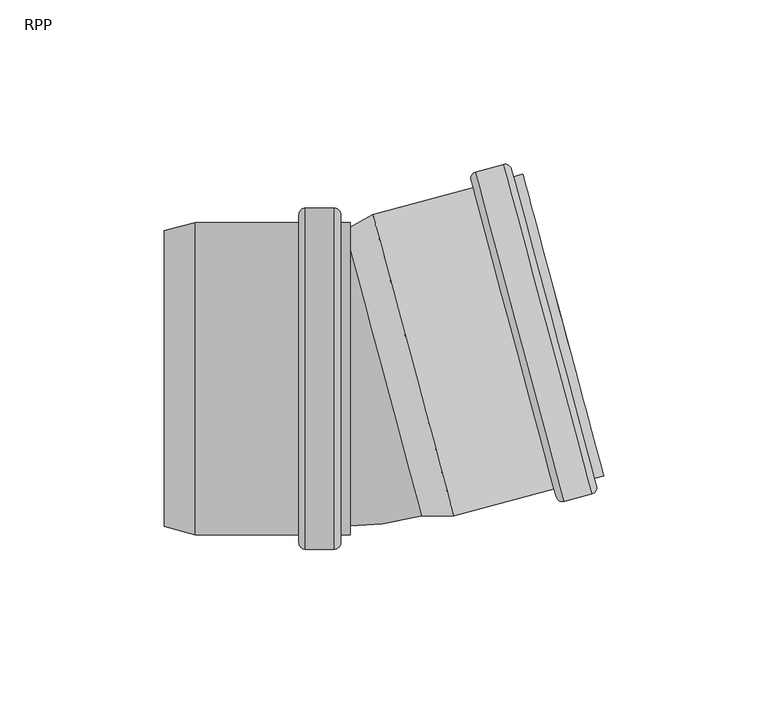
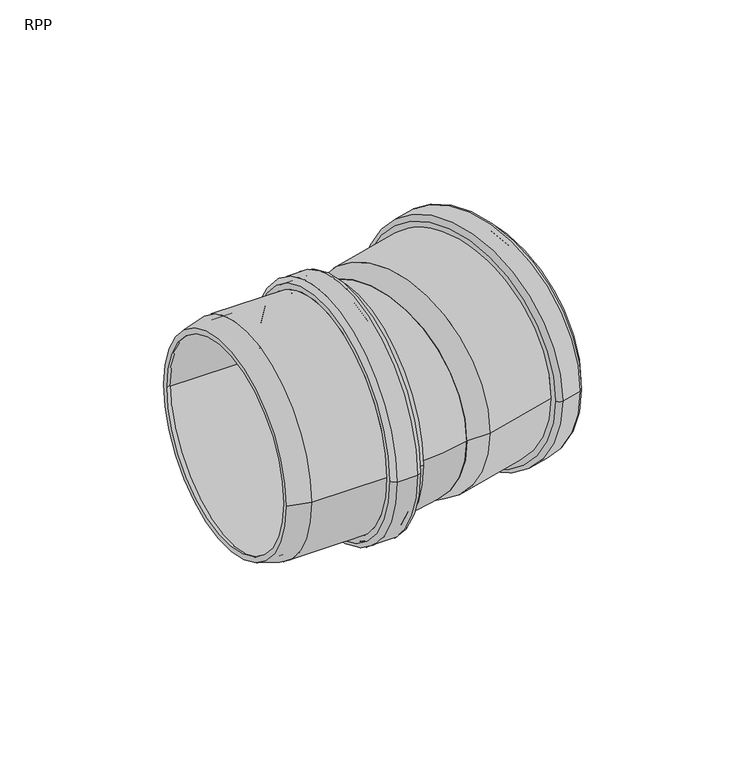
"""IFC4 building model written with IfcOpenShell, lengths in millimetres: pipe fitting geometry, RAUPIANO PLUS Bend : RPP."""

from ifc_helpers import new_model, si_unit, point, frame, origin, place, context, project, spatial, polyline, circle_curve, ellipse_curve, trimmed, source, transform, mapped, element, save
from ifc_brep_helpers import plane_surface, cylinder_surface, revolved_surface, advanced_brep


def rpp_1f847ae8(model_context):
    return source(origin(), model_context, "Body", "AdvancedBrep", [
        advanced_brep(
        [(-17.3509724, -45.3, 0.0), (-17.3509724, 45.3, 0.0), (-50.8312099, 45.3, 0.0), (-50.8312099, -45.3, 0.0), (-16.8509724, -49.7, 0.0), (-16.8509724, 49.7, 0.0), (-17.3509724, 49.2, 0.0), (-17.3509724, -49.2, 0.0), (-9.5509724, -49.7, 0.0), (-9.5509724, 49.7, 0.0), (-9.0509724, -49.2, 0.0), (-9.0509724, 49.2, 0.0), (-3.9509724, -45.3, 0.0), (-3.9509724, 45.3, 0.0), (-9.0509724, 45.3, 0.0), (-9.0509724, -45.3, 0.0), (-6.8509724, -47.5, 0.0), (-6.8509724, 47.5, 0.0), (-3.9509724, 47.5, 0.0), (-3.9509724, -47.5, 0.0), (-8.8509724, -51.9, 0.0), (-8.8509724, 51.9, 0.0), (-6.8509724, 49.9, 0.0), (-6.8509724, -49.9, 0.0), (-17.5509724, -51.9, 0.0), (-17.5509724, 51.9, 0.0), (-19.5509724, -49.9, 0.0), (-19.5509724, 49.9, 0.0), (-51.1208454, -47.5, 0.0), (-51.1208454, 47.5, 0.0), (-19.5509724, 47.5, 0.0), (-19.5509724, -47.5, 0.0), (-60.4509724, -45.0, 0.0), (-60.4509724, 45.0, 0.0), (-60.4509724, 42.7223924, 0.0), (-60.4509724, -42.7223924, 0.0)],
        [
            (0, 1, circle_curve(frame((-17.3509724, 0.0, 0.0), z_axis=(1.0, 0.0, 0.0), x_axis=(0.0, 1.0, 0.0)), 45.3)),
            (1, 2),
            (2, 3, circle_curve(frame((-50.8312099, 0.0, 0.0), z_axis=(-1.0, 0.0, 0.0), x_axis=(0.0, 1.0, 0.0)), 45.3)),
            (3, 0),
            (4, 5, circle_curve(frame((-16.8509724, 0.0, 0.0), z_axis=(1.0, 0.0, 0.0), x_axis=(0.0, 1.0, 0.0)), 49.7)),
            (5, 6, circle_curve(frame((-16.8509724, 49.2, 0.0), z_axis=(0.0, 0.0, 1.0), x_axis=(0.0, -1.0, 0.0)), 0.5)),
            (6, 7, circle_curve(frame((-17.3509724, 0.0, 0.0), z_axis=(-1.0, 0.0, 0.0), x_axis=(0.0, 1.0, 0.0)), 49.2)),
            (7, 4, circle_curve(frame((-16.8509724, -49.2, 0.0), z_axis=(0.0, 0.0, 1.0), x_axis=(0.0, 1.0, 0.0)), 0.5)),
            (8, 9, circle_curve(frame((-9.5509724, 0.0, 0.0), z_axis=(1.0, 0.0, 0.0), x_axis=(0.0, 1.0, 0.0)), 49.7)),
            (9, 5),
            (4, 8),
            (10, 11, circle_curve(frame((-9.0509724, 0.0, 0.0), z_axis=(1.0, 0.0, 0.0), x_axis=(0.0, 1.0, 0.0)), 49.2)),
            (11, 9, circle_curve(frame((-9.5509724, 49.2, 0.0), z_axis=(0.0, 0.0, 1.0), x_axis=(0.0, -1.0, 0.0)), 0.5)),
            (8, 10, circle_curve(frame((-9.5509724, -49.2, 0.0), z_axis=(0.0, 0.0, 1.0), x_axis=(0.0, 1.0, 0.0)), 0.5)),
            (12, 13, circle_curve(frame((-3.9509724, 0.0, 0.0), z_axis=(1.0, 0.0, 0.0), x_axis=(0.0, 1.0, 0.0)), 45.3)),
            (13, 14),
            (14, 15, circle_curve(frame((-9.0509724, 0.0, 0.0), z_axis=(-1.0, 0.0, 0.0), x_axis=(0.0, 1.0, 0.0)), 45.3)),
            (15, 12),
            (16, 17, circle_curve(frame((-6.8509724, 0.0, 0.0), z_axis=(1.0, 0.0, 0.0), x_axis=(0.0, 1.0, 0.0)), 47.5)),
            (17, 18),
            (18, 19, circle_curve(frame((-3.9509724, 0.0, 0.0), z_axis=(-1.0, 0.0, 0.0), x_axis=(0.0, 1.0, 0.0)), 47.5)),
            (19, 16),
            (20, 21, circle_curve(frame((-8.8509724, 0.0, 0.0), z_axis=(1.0, 0.0, 0.0), x_axis=(0.0, 1.0, 0.0)), 51.9)),
            (21, 22, circle_curve(frame((-8.8509724, 49.9, 0.0), z_axis=(0.0, 0.0, -1.0), x_axis=(0.0, -1.0, 0.0)), 2.0)),
            (22, 23, circle_curve(frame((-6.8509724, 0.0, 0.0), z_axis=(-1.0, 0.0, 0.0), x_axis=(0.0, 1.0, 0.0)), 49.9)),
            (23, 20, circle_curve(frame((-8.8509724, -49.9, 0.0), z_axis=(0.0, 0.0, -1.0), x_axis=(0.0, 1.0, 0.0)), 2.0)),
            (24, 25, circle_curve(frame((-17.5509724, 0.0, 0.0), z_axis=(1.0, 0.0, 0.0), x_axis=(0.0, 1.0, 0.0)), 51.9)),
            (25, 21),
            (20, 24),
            (26, 27, circle_curve(frame((-19.5509724, 0.0, 0.0), z_axis=(1.0, 0.0, 0.0), x_axis=(0.0, 1.0, 0.0)), 49.9)),
            (27, 25, circle_curve(frame((-17.5509724, 49.9, 0.0), z_axis=(0.0, 0.0, -1.0), x_axis=(0.0, -1.0, 0.0)), 2.0)),
            (24, 26, circle_curve(frame((-17.5509724, -49.9, 0.0), z_axis=(0.0, 0.0, -1.0), x_axis=(0.0, 1.0, 0.0)), 2.0)),
            (28, 29, circle_curve(frame((-51.1208454, 0.0, 0.0), z_axis=(1.0, 0.0, 0.0), x_axis=(0.0, 1.0, 0.0)), 47.5)),
            (29, 30),
            (30, 31, circle_curve(frame((-19.5509724, 0.0, 0.0), z_axis=(-1.0, 0.0, 0.0), x_axis=(0.0, 1.0, 0.0)), 47.5)),
            (31, 28),
            (32, 33, circle_curve(frame((-60.4509724, 0.0, 0.0), z_axis=(1.0, 0.0, 0.0), x_axis=(0.0, 1.0, 0.0)), 45.0)),
            (33, 29),
            (28, 32),
            (2, 34),
            (34, 35, circle_curve(frame((-60.4509724, 0.0, 0.0), z_axis=(-1.0, 0.0, 0.0), x_axis=(0.0, 1.0, 0.0)), 42.7223924)),
            (35, 3),
            (1, 0, circle_curve(frame((-17.3509724, 0.0, 0.0), z_axis=(1.0, 0.0, 0.0), x_axis=(0.0, -1.0, 0.0)), 45.3)),
            (3, 2, circle_curve(frame((-50.8312099, 0.0, 0.0), z_axis=(-1.0, 0.0, 0.0), x_axis=(0.0, -1.0, 0.0)), 45.3)),
            (6, 7, circle_curve(frame((-17.3509724, 0.0, 0.0), z_axis=(1.0, 0.0, 0.0), x_axis=(0.0, -1.0, 0.0)), 49.2)),
            (5, 4, circle_curve(frame((-16.8509724, 0.0, 0.0), z_axis=(1.0, 0.0, 0.0), x_axis=(0.0, -1.0, 0.0)), 49.7)),
            (9, 8, circle_curve(frame((-9.5509724, 0.0, 0.0), z_axis=(1.0, 0.0, 0.0), x_axis=(0.0, -1.0, 0.0)), 49.7)),
            (11, 10, circle_curve(frame((-9.0509724, 0.0, 0.0), z_axis=(1.0, 0.0, 0.0), x_axis=(0.0, -1.0, 0.0)), 49.2)),
            (14, 15, circle_curve(frame((-9.0509724, 0.0, 0.0), z_axis=(1.0, 0.0, 0.0), x_axis=(0.0, -1.0, 0.0)), 45.3)),
            (13, 12, circle_curve(frame((-3.9509724, 0.0, 0.0), z_axis=(1.0, 0.0, 0.0), x_axis=(0.0, -1.0, 0.0)), 45.3)),
            (18, 19, circle_curve(frame((-3.9509724, 0.0, 0.0), z_axis=(1.0, 0.0, 0.0), x_axis=(0.0, -1.0, 0.0)), 47.5)),
            (17, 16, circle_curve(frame((-6.8509724, 0.0, 0.0), z_axis=(1.0, 0.0, 0.0), x_axis=(0.0, -1.0, 0.0)), 47.5)),
            (22, 23, circle_curve(frame((-6.8509724, 0.0, 0.0), z_axis=(1.0, 0.0, 0.0), x_axis=(0.0, -1.0, 0.0)), 49.9)),
            (21, 20, circle_curve(frame((-8.8509724, 0.0, 0.0), z_axis=(1.0, 0.0, 0.0), x_axis=(0.0, -1.0, 0.0)), 51.9)),
            (25, 24, circle_curve(frame((-17.5509724, 0.0, 0.0), z_axis=(1.0, 0.0, 0.0), x_axis=(0.0, -1.0, 0.0)), 51.9)),
            (27, 26, circle_curve(frame((-19.5509724, 0.0, 0.0), z_axis=(1.0, 0.0, 0.0), x_axis=(0.0, -1.0, 0.0)), 49.9)),
            (30, 31, circle_curve(frame((-19.5509724, 0.0, 0.0), z_axis=(1.0, 0.0, 0.0), x_axis=(0.0, -1.0, 0.0)), 47.5)),
            (29, 28, circle_curve(frame((-51.1208454, 0.0, 0.0), z_axis=(1.0, 0.0, 0.0), x_axis=(0.0, -1.0, 0.0)), 47.5)),
            (33, 32, circle_curve(frame((-60.4509724, 0.0, 0.0), z_axis=(1.0, 0.0, 0.0), x_axis=(0.0, -1.0, 0.0)), 45.0)),
            (34, 35, circle_curve(frame((-60.4509724, 0.0, 0.0), z_axis=(1.0, 0.0, 0.0), x_axis=(0.0, -1.0, 0.0)), 42.7223924)),
        ],
        [
            revolved_surface(polyline([(-50.8312099, 45.3, 0.0), (-17.350972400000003, 45.3, 0.0)]), (-60.4509724, 0.0, 0.0), (-1.0, 0.0, 0.0)),
            revolved_surface(trimmed(ellipse_curve(frame((-16.8509724, 49.2, 0.0), z_axis=(0.0, 0.0, -1.0), x_axis=(0.0, -1.0, 0.0)), 0.5, 0.5), [point((-17.3509724, 49.2, 0.0))], [point((-16.8509724, 49.7, 0.0))], True, "CARTESIAN"), (-60.4509724, 0.0, 0.0), (-1.0, 0.0, 0.0)),
            revolved_surface(polyline([(-16.850972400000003, 49.7, 0.0), (-9.5509724, 49.7, 0.0)]), (-60.4509724, 0.0, 0.0), (-1.0, 0.0, 0.0)),
            revolved_surface(trimmed(ellipse_curve(frame((-9.5509724, 49.2, 0.0), z_axis=(0.0, 0.0, -1.0), x_axis=(0.0, -1.0, 0.0)), 0.5, 0.5), [point((-9.5509724, 49.7, 0.0))], [point((-9.0509724, 49.2, 0.0))], True, "CARTESIAN"), (-60.4509724, 0.0, 0.0), (-1.0, 0.0, 0.0)),
            revolved_surface(polyline([(-9.0509724, 45.3, 0.0), (-3.9509723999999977, 45.3, 0.0)]), (-60.4509724, 0.0, 0.0), (-1.0, 0.0, 0.0)),
            cylinder_surface(frame((-60.4509724, 0.0, 0.0), z_axis=(-1.0, 0.0, 0.0), x_axis=(0.0, 1.0, 0.0)), 47.5),
            revolved_surface(trimmed(ellipse_curve(frame((-8.8509724, 49.9, 0.0), z_axis=(0.0, 0.0, 1.0), x_axis=(0.0, -1.0, 0.0)), 2.0, 2.0), [point((-6.8509724, 49.9, 0.0))], [point((-8.8509724, 51.9, 0.0))], True, "CARTESIAN"), (-60.4509724, 0.0, 0.0), (-1.0, 0.0, 0.0)),
            cylinder_surface(frame((-60.4509724, 0.0, 0.0), z_axis=(-1.0, 0.0, 0.0), x_axis=(0.0, 1.0, 0.0)), 51.9),
            revolved_surface(trimmed(ellipse_curve(frame((-17.5509724, 49.9, 0.0), z_axis=(0.0, 0.0, 1.0), x_axis=(0.0, -1.0, 0.0)), 2.0, 2.0), [point((-17.5509724, 51.9, 0.0))], [point((-19.5509724, 49.9, 0.0))], True, "CARTESIAN"), (-60.4509724, 0.0, 0.0), (-1.0, 0.0, 0.0)),
            revolved_surface(polyline([(-51.1208454, 47.5, 0.0), (-60.4509724, 45.0, 0.0)]), (-60.4509724, 0.0, 0.0), (-1.0, 0.0, 0.0)),
            revolved_surface(polyline([(-60.4509724, 42.7223924, 0.0), (-50.8312099, 45.3, 0.0)]), (-60.4509724, 0.0, 0.0), (-1.0, 0.0, 0.0)),
            revolved_surface(polyline([(-50.8312099, -45.3, 0.0), (-17.350972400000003, -45.3, 0.0)]), (-60.4509724, 0.0, 0.0), (-1.0, 0.0, 0.0)),
            plane_surface(frame((-17.3509724, 0.0, 0.0), z_axis=(1.0, 0.0, 0.0), x_axis=(0.0, -1.0, 0.0))),
            revolved_surface(trimmed(ellipse_curve(frame((-16.8509724, -49.2, 0.0), z_axis=(0.0, 0.0, 1.0), x_axis=(0.0, 1.0, 0.0)), 0.5, 0.5), [point((-17.3509724, -49.2, 0.0))], [point((-16.8509724, -49.7, 0.0))], True, "CARTESIAN"), (-60.4509724, 0.0, 0.0), (-1.0, 0.0, 0.0)),
            revolved_surface(polyline([(-16.850972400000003, -49.7, 0.0), (-9.5509724, -49.7, 0.0)]), (-60.4509724, 0.0, 0.0), (-1.0, 0.0, 0.0)),
            revolved_surface(trimmed(ellipse_curve(frame((-9.5509724, -49.2, 0.0), z_axis=(0.0, 0.0, 1.0), x_axis=(0.0, 1.0, 0.0)), 0.5, 0.5), [point((-9.5509724, -49.7, 0.0))], [point((-9.0509724, -49.2, 0.0))], True, "CARTESIAN"), (-60.4509724, 0.0, 0.0), (-1.0, 0.0, 0.0)),
            plane_surface(frame((-9.0509724, 0.0, 0.0), z_axis=(-1.0, 0.0, 0.0), x_axis=(0.0, -1.0, 0.0))),
            revolved_surface(polyline([(-9.0509724, -45.3, 0.0), (-3.9509723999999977, -45.3, 0.0)]), (-60.4509724, 0.0, 0.0), (-1.0, 0.0, 0.0)),
            plane_surface(frame((-3.9509724, 0.0, 0.0), z_axis=(1.0, 0.0, 0.0), x_axis=(0.0, -1.0, 0.0))),
            cylinder_surface(frame((-60.4509724, 0.0, 0.0), z_axis=(-1.0, 0.0, 0.0), x_axis=(0.0, -1.0, 0.0)), 47.5),
            plane_surface(frame((-6.8509724, 0.0, 0.0), z_axis=(1.0, 0.0, 0.0), x_axis=(0.0, -1.0, 0.0))),
            revolved_surface(trimmed(ellipse_curve(frame((-8.8509724, -49.9, 0.0), z_axis=(0.0, 0.0, -1.0), x_axis=(0.0, 1.0, 0.0)), 2.0, 2.0), [point((-6.8509724, -49.9, 0.0))], [point((-8.8509724, -51.9, 0.0))], True, "CARTESIAN"), (-60.4509724, 0.0, 0.0), (-1.0, 0.0, 0.0)),
            cylinder_surface(frame((-60.4509724, 0.0, 0.0), z_axis=(-1.0, 0.0, 0.0), x_axis=(0.0, -1.0, 0.0)), 51.9),
            revolved_surface(trimmed(ellipse_curve(frame((-17.5509724, -49.9, 0.0), z_axis=(0.0, 0.0, -1.0), x_axis=(0.0, 1.0, 0.0)), 2.0, 2.0), [point((-17.5509724, -51.9, 0.0))], [point((-19.5509724, -49.9, 0.0))], True, "CARTESIAN"), (-60.4509724, 0.0, 0.0), (-1.0, 0.0, 0.0)),
            plane_surface(frame((-19.5509724, 0.0, 0.0), z_axis=(-1.0, 0.0, 0.0), x_axis=(0.0, -1.0, 0.0))),
            revolved_surface(polyline([(-51.1208454, -47.5, 0.0), (-60.4509724, -45.0, 0.0)]), (-60.4509724, 0.0, 0.0), (-1.0, 0.0, 0.0)),
            plane_surface(frame((-60.4509724, 0.0, 0.0), z_axis=(-1.0, 0.0, 0.0), x_axis=(0.0, -1.0, 0.0))),
            revolved_surface(polyline([(-60.4509724, -42.7223924, 0.0), (-50.8312099, -45.3, 0.0)]), (-60.4509724, 0.0, 0.0), (-1.0, 0.0, 0.0)),
        ],
        [
            (0, [[1, 2, 3, 4]]),
            (1, [[5, 6, 7, 8]]),
            (2, [[9, 10, -5, 11]]),
            (3, [[12, 13, -9, 14]]),
            (4, [[15, 16, 17, 18]]),
            (5, [[19, 20, 21, 22]]),
            (6, [[23, 24, 25, 26]]),
            (7, [[27, 28, -23, 29]]),
            (8, [[30, 31, -27, 32]]),
            (5, [[33, 34, 35, 36]]),
            (9, [[37, 38, -33, 39]]),
            (10, [[-3, 40, 41, 42]]),
            (11, [[43, -4, 44, -2]]),
            (12, [[45, -7], [-43, -1]]),
            (13, [[46, -8, -45, -6]]),
            (14, [[47, -11, -46, -10]]),
            (15, [[48, -14, -47, -13]]),
            (16, [[-48, -12], [49, -17]]),
            (17, [[50, -18, -49, -16]]),
            (18, [[51, -21], [-50, -15]]),
            (19, [[52, -22, -51, -20]]),
            (20, [[53, -25], [-52, -19]]),
            (21, [[54, -26, -53, -24]]),
            (22, [[55, -29, -54, -28]]),
            (23, [[56, -32, -55, -31]]),
            (24, [[-56, -30], [57, -35]]),
            (19, [[58, -36, -57, -34]]),
            (25, [[59, -39, -58, -38]]),
            (26, [[-59, -37], [60, -41]]),
            (27, [[-44, -42, -60, -40]]),
        ],
    ),
        advanced_brep(
        [(17.2885296, -39.5970277, 0.0), (-4.826208, 42.9362967, 0.0), (3.7986351, 47.9158522, 0.0), (27.2476406, -39.5970277, 0.0), (27.5372761, -41.7970277, 0.0), (2.9494668, 49.9659258, 0.0), (-5.4156962, 45.1362967, 0.0), (17.8780179, -41.7970277, 0.0), (58.0314318, -33.6261433, 0.0), (33.4436225, 58.1368102, 0.0), (69.5056419, -35.1068531, 0.0), (42.640225, 65.1562476, 0.0), (34.2366703, 62.9045219, 0.0), (61.1020872, -37.3585788, 0.0), (73.0998747, -29.5885662, 0.0), (48.5120654, 62.1743873, 0.0), (45.7108805, 61.4238121, 0.0), (70.2986898, -30.3391414, 0.0), (67.604251, -28.7835065, 0.0), (44.1552456, 58.7293734, 0.0), (49.0814673, 60.0493505, 0.0), (72.5304728, -27.4635294, 0.0), (61.2088334, -35.0523687, 0.0), (35.4822203, 60.9606584, 0.0), (42.5334788, 62.8500375, 0.0), (68.2600919, -33.1629897, 0.0), (36.1380612, 56.5811753, 0.0), (59.5870667, -30.9317046, 0.0), (32.8224568, 60.4550322, 0.0), (58.6525975, -35.9443653, 0.0), (70.9198555, -32.6573634, 0.0), (45.0897148, 63.7420341, 0.0), (43.1458513, 62.4964841, 0.0), (68.6136453, -32.5506172, 0.0), (60.596461, -34.6988153, 0.0), (35.1286669, 60.348286, 0.0)],
        [
            (0, 1, circle_curve(frame((6.2311608, 1.6696345, 0.0), z_axis=(-0.965925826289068, -0.25881904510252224, 0.0), x_axis=(-0.25881904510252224, 0.965925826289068, 0.0)), 42.7223924)),
            (1, 2),
            (2, 3, circle_curve(frame((15.5231379, 4.1594123, 0.0), z_axis=(0.965925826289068, 0.25881904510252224, 0.0), x_axis=(-0.25881904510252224, 0.965925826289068, 0.0)), 45.3)),
            (3, 0),
            (4, 5, circle_curve(frame((15.2433715, 4.0844491, 0.0), z_axis=(-0.965925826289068, -0.25881904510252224, 0.0), x_axis=(-0.25881904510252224, 0.965925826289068, 0.0)), 47.5)),
            (5, 6),
            (6, 7, circle_curve(frame((6.2311608, 1.6696345, 0.0), z_axis=(0.965925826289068, 0.25881904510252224, 0.0), x_axis=(-0.25881904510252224, 0.965925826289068, 0.0)), 45.0)),
            (7, 4),
            (8, 9, circle_curve(frame((45.7375271, 12.2553335, 0.0), z_axis=(-0.965925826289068, -0.25881904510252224, 0.0), x_axis=(-0.25881904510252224, 0.965925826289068, 0.0)), 47.5)),
            (9, 5),
            (4, 8),
            (10, 11, circle_curve(frame((56.0729335, 15.0246972, 0.0), z_axis=(-0.965925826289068, -0.25881904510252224, 0.0), x_axis=(-0.25881904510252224, 0.965925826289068, 0.0)), 51.9)),
            (11, 12),
            (12, 13, circle_curve(frame((47.6693788, 12.7729715, 0.0), z_axis=(0.965925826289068, 0.25881904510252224, 0.0), x_axis=(-0.25881904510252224, 0.965925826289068, 0.0)), 51.9)),
            (13, 10),
            (14, 15, circle_curve(frame((60.80597, 16.2929106, 0.0), z_axis=(-0.965925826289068, -0.25881904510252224, 0.0), x_axis=(-0.25881904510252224, 0.965925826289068, 0.0)), 47.5)),
            (15, 16),
            (16, 17, circle_curve(frame((58.0047851, 15.5423353, 0.0), z_axis=(0.965925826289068, 0.25881904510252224, 0.0), x_axis=(-0.25881904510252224, 0.965925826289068, 0.0)), 47.5)),
            (17, 14),
            (18, 19, circle_curve(frame((55.8797483, 14.9729334, 0.0), z_axis=(-0.965925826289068, -0.25881904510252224, 0.0), x_axis=(-0.25881904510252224, 0.965925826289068, 0.0)), 45.3)),
            (19, 20),
            (20, 21, circle_curve(frame((60.80597, 16.2929106, 0.0), z_axis=(0.965925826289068, 0.25881904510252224, 0.0), x_axis=(-0.25881904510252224, 0.965925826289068, 0.0)), 45.3)),
            (21, 18),
            (22, 23, circle_curve(frame((48.3455269, 12.9541449, 0.0), z_axis=(-0.965925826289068, -0.25881904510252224, 0.0), x_axis=(-0.25881904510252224, 0.965925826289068, 0.0)), 49.7)),
            (23, 24),
            (24, 25, circle_curve(frame((55.3967854, 14.8435239, 0.0), z_axis=(0.965925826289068, 0.25881904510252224, 0.0), x_axis=(-0.25881904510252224, 0.965925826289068, 0.0)), 49.7)),
            (25, 22),
            (2, 26),
            (26, 27, circle_curve(frame((47.8625639, 12.8247354, 0.0), z_axis=(0.965925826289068, 0.25881904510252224, 0.0), x_axis=(-0.25881904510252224, 0.965925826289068, 0.0)), 45.3)),
            (27, 3),
            (1, 0, circle_curve(frame((6.2311608, 1.6696345, 0.0), z_axis=(-0.965925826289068, -0.25881904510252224, 0.0), x_axis=(0.25881904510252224, -0.965925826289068, 0.0)), 42.7223924)),
            (3, 2, circle_curve(frame((15.5231379, 4.1594123, 0.0), z_axis=(0.965925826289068, 0.25881904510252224, 0.0), x_axis=(0.25881904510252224, -0.965925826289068, 0.0)), 45.3)),
            (6, 7, circle_curve(frame((6.2311608, 1.6696345, 0.0), z_axis=(-0.965925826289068, -0.25881904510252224, 0.0), x_axis=(0.25881904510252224, -0.965925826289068, 0.0)), 45.0)),
            (5, 4, circle_curve(frame((15.2433715, 4.0844491, 0.0), z_axis=(-0.965925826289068, -0.25881904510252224, 0.0), x_axis=(0.25881904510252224, -0.965925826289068, 0.0)), 47.5)),
            (9, 8, circle_curve(frame((45.7375271, 12.2553335, 0.0), z_axis=(-0.965925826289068, -0.25881904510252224, 0.0), x_axis=(0.25881904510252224, -0.965925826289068, 0.0)), 47.5)),
            (28, 29, circle_curve(frame((45.7375271, 12.2553335, 0.0), z_axis=(-0.965925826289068, -0.25881904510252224, 0.0), x_axis=(0.25881904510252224, -0.965925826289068, 0.0)), 49.9)),
            (29, 28, circle_curve(frame((45.7375271, 12.2553335, 0.0), z_axis=(-0.965925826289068, -0.25881904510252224, 0.0), x_axis=(-0.25881904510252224, 0.965925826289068, 0.0)), 49.9)),
            (11, 10, circle_curve(frame((56.0729335, 15.0246972, 0.0), z_axis=(-0.965925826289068, -0.25881904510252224, 0.0), x_axis=(0.25881904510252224, -0.965925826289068, 0.0)), 51.9)),
            (13, 12, circle_curve(frame((47.6693788, 12.7729715, 0.0), z_axis=(0.965925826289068, 0.25881904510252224, 0.0), x_axis=(0.25881904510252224, -0.965925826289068, 0.0)), 51.9)),
            (30, 31, circle_curve(frame((58.0047851, 15.5423353, 0.0), z_axis=(0.965925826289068, 0.25881904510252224, 0.0), x_axis=(0.25881904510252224, -0.965925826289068, 0.0)), 49.9)),
            (31, 30, circle_curve(frame((58.0047851, 15.5423353, 0.0), z_axis=(0.965925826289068, 0.25881904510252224, 0.0), x_axis=(-0.25881904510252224, 0.965925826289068, 0.0)), 49.9)),
            (16, 17, circle_curve(frame((58.0047851, 15.5423353, 0.0), z_axis=(-0.965925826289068, -0.25881904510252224, 0.0), x_axis=(0.25881904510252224, -0.965925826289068, 0.0)), 47.5)),
            (15, 14, circle_curve(frame((60.80597, 16.2929106, 0.0), z_axis=(-0.965925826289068, -0.25881904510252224, 0.0), x_axis=(0.25881904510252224, -0.965925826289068, 0.0)), 47.5)),
            (20, 21, circle_curve(frame((60.80597, 16.2929106, 0.0), z_axis=(-0.965925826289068, -0.25881904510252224, 0.0), x_axis=(0.25881904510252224, -0.965925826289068, 0.0)), 45.3)),
            (19, 18, circle_curve(frame((55.8797483, 14.9729334, 0.0), z_axis=(-0.965925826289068, -0.25881904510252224, 0.0), x_axis=(0.25881904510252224, -0.965925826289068, 0.0)), 45.3)),
            (32, 33, circle_curve(frame((55.8797483, 14.9729334, 0.0), z_axis=(-0.965925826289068, -0.25881904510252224, 0.0), x_axis=(0.25881904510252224, -0.965925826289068, 0.0)), 49.2)),
            (33, 32, circle_curve(frame((55.8797483, 14.9729334, 0.0), z_axis=(-0.965925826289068, -0.25881904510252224, 0.0), x_axis=(-0.25881904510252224, 0.965925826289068, 0.0)), 49.2)),
            (23, 22, circle_curve(frame((48.3455269, 12.9541449, 0.0), z_axis=(-0.965925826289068, -0.25881904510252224, 0.0), x_axis=(0.25881904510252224, -0.965925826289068, 0.0)), 49.7)),
            (25, 24, circle_curve(frame((55.3967854, 14.8435239, 0.0), z_axis=(0.965925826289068, 0.25881904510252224, 0.0), x_axis=(0.25881904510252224, -0.965925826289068, 0.0)), 49.7)),
            (34, 35, circle_curve(frame((47.8625639, 12.8247354, 0.0), z_axis=(0.965925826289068, 0.25881904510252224, 0.0), x_axis=(0.25881904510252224, -0.965925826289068, 0.0)), 49.2)),
            (35, 34, circle_curve(frame((47.8625639, 12.8247354, 0.0), z_axis=(0.965925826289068, 0.25881904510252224, 0.0), x_axis=(-0.25881904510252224, 0.965925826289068, 0.0)), 49.2)),
            (26, 27, circle_curve(frame((47.8625639, 12.8247354, 0.0), z_axis=(-0.965925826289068, -0.25881904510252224, 0.0), x_axis=(0.25881904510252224, -0.965925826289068, 0.0)), 45.3)),
            (12, 28, circle_curve(frame((34.7543084, 60.9726703, 0.0), z_axis=(0.0, 0.0, 1.0000000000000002), x_axis=(0.25881904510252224, -0.965925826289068, 0.0)), 2.0)),
            (29, 13, circle_curve(frame((60.5844491, -35.4267272, 0.0), z_axis=(0.0, 0.0, 1.0000000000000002), x_axis=(-0.25881904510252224, 0.965925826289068, 0.0)), 2.0)),
            (31, 11, circle_curve(frame((43.1578631, 63.224396, 0.0), z_axis=(0.0, 0.0, 1.0000000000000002), x_axis=(0.25881904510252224, -0.965925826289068, 0.0)), 2.0)),
            (10, 30, circle_curve(frame((68.9880038, -33.1750015, 0.0), z_axis=(0.0, 0.0, 1.0000000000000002), x_axis=(-0.25881904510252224, 0.965925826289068, 0.0)), 2.0)),
            (24, 32, circle_curve(frame((42.6628884, 62.3670746, 0.0), z_axis=(0.0, 0.0, -1.0000000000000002), x_axis=(0.25881904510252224, -0.965925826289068, 0.0)), 0.5)),
            (33, 25, circle_curve(frame((68.1306824, -32.6800267, 0.0), z_axis=(0.0, 0.0, -1.0000000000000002), x_axis=(-0.25881904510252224, 0.965925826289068, 0.0)), 0.5)),
            (35, 23, circle_curve(frame((35.6116298, 60.4776955, 0.0), z_axis=(0.0, 0.0, -1.0000000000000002), x_axis=(0.25881904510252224, -0.965925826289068, 0.0)), 0.5)),
            (22, 34, circle_curve(frame((61.0794239, -34.5694058, 0.0), z_axis=(0.0, 0.0, -1.0000000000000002), x_axis=(-0.25881904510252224, 0.965925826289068, 0.0)), 0.5)),
        ],
        [
            revolved_surface(polyline([(3.7986351, 47.9158522, 0.0), (-4.826208, 42.9362967, 0.0)]), (6.2311608, 1.6696345, 0.0), (0.965925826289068, 0.25881904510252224, 0.0)),
            revolved_surface(polyline([(-5.4156962, 45.1362967, 0.0), (2.9494668, 49.9659258, 0.0)]), (6.2311608, 1.6696345, 0.0), (0.965925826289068, 0.25881904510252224, 0.0)),
            cylinder_surface(frame((6.2311608, 1.6696345, 0.0), z_axis=(0.965925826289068, 0.25881904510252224, 0.0), x_axis=(-0.25881904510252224, 0.965925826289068, 0.0)), 47.5),
            cylinder_surface(frame((6.2311608, 1.6696345, 0.0), z_axis=(0.965925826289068, 0.25881904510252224, 0.0), x_axis=(-0.25881904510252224, 0.965925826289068, 0.0)), 51.9),
            revolved_surface(polyline([(49.08146730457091, 60.049350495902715, 0.0), (44.155245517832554, 58.72937334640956, 0.0)]), (6.2311608, 1.6696345, 0.0), (0.965925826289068, 0.25881904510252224, 0.0)),
            revolved_surface(polyline([(42.53347885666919, 62.85003747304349, 0.0), (35.482220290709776, 60.960658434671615, 0.0)]), (6.2311608, 1.6696345, 0.0), (0.965925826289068, 0.25881904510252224, 0.0)),
            revolved_surface(polyline([(36.13806120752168, 56.58117528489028, 0.0), (3.7986351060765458, 47.91585217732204, 0.0)]), (6.2311608, 1.6696345, 0.0), (0.965925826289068, 0.25881904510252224, 0.0)),
            revolved_surface(polyline([(27.2476406, -39.5970277, 0.0), (17.2885296, -39.5970277, 0.0)]), (6.2311608, 1.6696345, 0.0), (0.965925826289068, 0.25881904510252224, 0.0)),
            plane_surface(frame((6.2311608, 1.6696345, 0.0), z_axis=(-0.965925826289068, -0.25881904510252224, 0.0), x_axis=(0.25881904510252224, -0.965925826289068, 0.0))),
            revolved_surface(polyline([(17.8780179, -41.7970277, 0.0), (27.5372761, -41.7970277, 0.0)]), (6.2311608, 1.6696345, 0.0), (0.965925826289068, 0.25881904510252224, 0.0)),
            cylinder_surface(frame((6.2311608, 1.6696345, 0.0), z_axis=(0.965925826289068, 0.25881904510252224, 0.0), x_axis=(0.25881904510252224, -0.965925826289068, 0.0)), 47.5),
            plane_surface(frame((45.7375271, 12.2553335, 0.0), z_axis=(-0.965925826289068, -0.25881904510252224, 0.0), x_axis=(0.25881904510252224, -0.965925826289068, 0.0))),
            cylinder_surface(frame((6.2311608, 1.6696345, 0.0), z_axis=(0.965925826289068, 0.25881904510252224, 0.0), x_axis=(0.25881904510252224, -0.965925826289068, 0.0)), 51.9),
            plane_surface(frame((58.0047851, 15.5423353, 0.0), z_axis=(0.965925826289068, 0.25881904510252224, 0.0), x_axis=(0.25881904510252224, -0.965925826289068, 0.0))),
            plane_surface(frame((60.80597, 16.2929106, 0.0), z_axis=(0.965925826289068, 0.25881904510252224, 0.0), x_axis=(0.25881904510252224, -0.965925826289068, 0.0))),
            revolved_surface(polyline([(72.53047279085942, -27.463529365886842, 0.0), (67.60425100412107, -28.783506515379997, 0.0)]), (6.2311608, 1.6696345, 0.0), (0.965925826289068, 0.25881904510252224, 0.0)),
            plane_surface(frame((55.8797483, 14.9729334, 0.0), z_axis=(-0.965925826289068, -0.25881904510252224, 0.0), x_axis=(0.25881904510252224, -0.965925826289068, 0.0))),
            revolved_surface(polyline([(68.2600919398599, -33.16298966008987, 0.0), (61.20883337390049, -35.05236869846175, 0.0)]), (6.2311608, 1.6696345, 0.0), (0.965925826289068, 0.25881904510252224, 0.0)),
            plane_surface(frame((47.8625639, 12.8247354, 0.0), z_axis=(0.965925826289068, 0.25881904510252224, 0.0), x_axis=(0.25881904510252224, -0.965925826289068, 0.0))),
            revolved_surface(polyline([(59.58706669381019, -30.931704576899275, 0.0), (27.24764059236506, -39.59702768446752, 0.0)]), (6.2311608, 1.6696345, 0.0), (0.965925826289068, 0.25881904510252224, 0.0)),
            revolved_surface(trimmed(ellipse_curve(frame((34.7543084, 60.9726703, 0.0), z_axis=(0.0, 0.0, -1.0000000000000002), x_axis=(0.25881904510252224, -0.965925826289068, 0.0)), 2.0, 2.0), [point((32.8224568, 60.4550322, 0.0))], [point((34.2366703, 62.9045219, 0.0))], True, "CARTESIAN"), (6.2311608, 1.6696345, 0.0), (0.965925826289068, 0.25881904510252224, 0.0)),
            revolved_surface(trimmed(ellipse_curve(frame((43.1578631, 63.224396, 0.0), z_axis=(0.0, 0.0, -1.0000000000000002), x_axis=(0.25881904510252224, -0.965925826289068, 0.0)), 2.0, 2.0), [point((42.640225, 65.1562476, 0.0))], [point((45.0897148, 63.7420341, 0.0))], True, "CARTESIAN"), (6.2311608, 1.6696345, 0.0), (0.965925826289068, 0.25881904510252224, 0.0)),
            revolved_surface(trimmed(ellipse_curve(frame((42.6628884, 62.3670746, 0.0), z_axis=(0.0, 0.0, 1.0000000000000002), x_axis=(0.25881904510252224, -0.965925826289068, 0.0)), 0.5, 0.5), [point((43.1458513, 62.4964841, 0.0))], [point((42.5334788, 62.8500375, 0.0))], True, "CARTESIAN"), (6.2311608, 1.6696345, 0.0), (0.965925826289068, 0.25881904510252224, 0.0)),
            revolved_surface(trimmed(ellipse_curve(frame((35.6116298, 60.4776955, 0.0), z_axis=(0.0, 0.0, 1.0000000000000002), x_axis=(0.25881904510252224, -0.965925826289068, 0.0)), 0.5, 0.5), [point((35.4822203, 60.9606584, 0.0))], [point((35.1286669, 60.348286, 0.0))], True, "CARTESIAN"), (6.2311608, 1.6696345, 0.0), (0.965925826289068, 0.25881904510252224, 0.0)),
            revolved_surface(trimmed(ellipse_curve(frame((60.5844491, -35.4267272, 0.0), z_axis=(0.0, 0.0, 1.0000000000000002), x_axis=(-0.2588190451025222, 0.965925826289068, 0.0)), 2.0, 2.0), [point((58.6525975, -35.9443653, 0.0))], [point((61.1020872, -37.3585788, 0.0))], True, "CARTESIAN"), (6.2311608, 1.6696345, 0.0), (0.965925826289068, 0.25881904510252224, 0.0)),
            revolved_surface(trimmed(ellipse_curve(frame((68.9880038, -33.1750015, 0.0), z_axis=(0.0, 0.0, 1.0000000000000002), x_axis=(-0.2588190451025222, 0.965925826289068, 0.0)), 2.0, 2.0), [point((69.5056419, -35.1068531, 0.0))], [point((70.9198555, -32.6573634, 0.0))], True, "CARTESIAN"), (6.2311608, 1.6696345, 0.0), (0.965925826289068, 0.25881904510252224, 0.0)),
            revolved_surface(trimmed(ellipse_curve(frame((68.1306824, -32.6800267, 0.0), z_axis=(0.0, 0.0, -1.0000000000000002), x_axis=(-0.2588190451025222, 0.965925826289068, 0.0)), 0.5, 0.5), [point((68.6136453, -32.5506172, 0.0))], [point((68.2600919, -33.1629897, 0.0))], True, "CARTESIAN"), (6.2311608, 1.6696345, 0.0), (0.965925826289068, 0.25881904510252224, 0.0)),
            revolved_surface(trimmed(ellipse_curve(frame((61.0794239, -34.5694058, 0.0), z_axis=(0.0, 0.0, -1.0000000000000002), x_axis=(-0.2588190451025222, 0.965925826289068, 0.0)), 0.5, 0.5), [point((61.2088334, -35.0523687, 0.0))], [point((60.596461, -34.6988153, 0.0))], True, "CARTESIAN"), (6.2311608, 1.6696345, 0.0), (0.965925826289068, 0.25881904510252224, 0.0)),
        ],
        [
            (0, [[1, 2, 3, 4]]),
            (1, [[5, 6, 7, 8]]),
            (2, [[9, 10, -5, 11]]),
            (3, [[12, 13, 14, 15]]),
            (2, [[16, 17, 18, 19]]),
            (4, [[20, 21, 22, 23]]),
            (5, [[24, 25, 26, 27]]),
            (6, [[-3, 28, 29, 30]]),
            (7, [[31, -4, 32, -2]]),
            (8, [[33, -7], [-31, -1]]),
            (9, [[34, -8, -33, -6]]),
            (10, [[35, -11, -34, -10]]),
            (11, [[36, 37], [-35, -9]]),
            (12, [[38, -15, 39, -13]]),
            (13, [[40, 41], [42, -18]]),
            (10, [[43, -19, -42, -17]]),
            (14, [[-43, -16], [44, -22]]),
            (15, [[45, -23, -44, -21]]),
            (16, [[46, 47], [-45, -20]]),
            (17, [[48, -27, 49, -25]]),
            (18, [[50, 51], [52, -29]]),
            (19, [[-32, -30, -52, -28]]),
            (20, [[-14, 53, -37, 54]]),
            (21, [[-41, 55, -12, 56]]),
            (22, [[-26, 57, -47, 58]]),
            (23, [[-51, 59, -24, 60]]),
            (24, [[-39, -54, -36, -53]]),
            (25, [[-40, -56, -38, -55]]),
            (26, [[-49, -58, -46, -57]]),
            (27, [[-50, -60, -48, -59]]),
        ],
    ),
        advanced_brep(
        [(-6.4509724, 42.8, 0.0), (-6.4509724, -42.8, 0.0), (-60.4509724, -42.8, 0.0), (-60.4509724, 42.8, 0.0), (-55.2261013, 45.0, 0.0), (-55.2261013, -45.0, 0.0), (-6.4509724, -45.0, 0.0), (-6.4509724, 45.0, 0.0), (-60.4509724, 43.6, 0.0), (-60.4509724, -43.6, 0.0)],
        [
            (0, 1, circle_curve(frame((-6.4509724, 0.0, 0.0), z_axis=(1.0, 0.0, 0.0), x_axis=(0.0, -1.0, 0.0)), 42.8)),
            (1, 2),
            (2, 3, circle_curve(frame((-60.4509724, 0.0, 0.0), z_axis=(-1.0, 0.0, 0.0), x_axis=(0.0, -1.0, 0.0)), 42.8)),
            (3, 0),
            (4, 5, circle_curve(frame((-55.2261013, 0.0, 0.0), z_axis=(1.0, 0.0, 0.0), x_axis=(0.0, -1.0, 0.0)), 45.0)),
            (5, 6),
            (6, 7, circle_curve(frame((-6.4509724, 0.0, 0.0), z_axis=(-1.0, 0.0, 0.0), x_axis=(0.0, -1.0, 0.0)), 45.0)),
            (7, 4),
            (8, 9, circle_curve(frame((-60.4509724, 0.0, 0.0), z_axis=(1.0, 0.0, 0.0), x_axis=(0.0, -1.0, 0.0)), 43.6)),
            (9, 5),
            (4, 8),
            (1, 0, circle_curve(frame((-6.4509724, 0.0, 0.0), z_axis=(1.0, 0.0, 0.0), x_axis=(0.0, 1.0, 0.0)), 42.8)),
            (3, 2, circle_curve(frame((-60.4509724, 0.0, 0.0), z_axis=(-1.0, 0.0, 0.0), x_axis=(0.0, 1.0, 0.0)), 42.8)),
            (6, 7, circle_curve(frame((-6.4509724, 0.0, 0.0), z_axis=(1.0, 0.0, 0.0), x_axis=(0.0, 1.0, 0.0)), 45.0)),
            (5, 4, circle_curve(frame((-55.2261013, 0.0, 0.0), z_axis=(1.0, 0.0, 0.0), x_axis=(0.0, 1.0, 0.0)), 45.0)),
            (9, 8, circle_curve(frame((-60.4509724, 0.0, 0.0), z_axis=(1.0, 0.0, 0.0), x_axis=(0.0, 1.0, 0.0)), 43.6)),
        ],
        [
            revolved_surface(polyline([(-60.4509724, -42.8, 0.0), (-6.4509724, -42.8, 0.0)]), (-6.4509724, 0.0, 0.0), (-1.0, 0.0, 0.0)),
            cylinder_surface(frame((-6.4509724, 0.0, 0.0), z_axis=(-1.0, 0.0, 0.0), x_axis=(0.0, -1.0, 0.0)), 45.0),
            revolved_surface(polyline([(-55.2261013, -45.0, 0.0), (-60.4509724, -43.6, 0.0)]), (-6.4509724, 0.0, 0.0), (-1.0, 0.0, 0.0)),
            revolved_surface(polyline([(-60.4509724, 42.8, 0.0), (-6.4509724, 42.8, 0.0)]), (-6.4509724, 0.0, 0.0), (-1.0, 0.0, 0.0)),
            plane_surface(frame((-6.4509724, 0.0, 0.0), z_axis=(1.0, 0.0, 0.0), x_axis=(0.0, 1.0, 0.0))),
            cylinder_surface(frame((-6.4509724, 0.0, 0.0), z_axis=(-1.0, 0.0, 0.0), x_axis=(0.0, 1.0, 0.0)), 45.0),
            revolved_surface(polyline([(-55.2261013, 45.0, 0.0), (-60.4509724, 43.6, 0.0)]), (-6.4509724, 0.0, 0.0), (-1.0, 0.0, 0.0)),
            plane_surface(frame((-60.4509724, 0.0, 0.0), z_axis=(-1.0, 0.0, 0.0), x_axis=(0.0, 1.0, 0.0))),
        ],
        [
            (0, [[1, 2, 3, 4]]),
            (1, [[5, 6, 7, 8]]),
            (2, [[9, 10, -5, 11]]),
            (3, [[12, -4, 13, -2]]),
            (4, [[14, -7], [-12, -1]]),
            (5, [[15, -8, -14, -6]]),
            (6, [[16, -11, -15, -10]]),
            (7, [[-16, -9], [-13, -3]]),
        ],
    ),
        advanced_brep(
        [(-6.4509724, -45.0, 0.0), (-6.4509724, 45.0, 0.0), (-6.4509724, -42.8, 0.0), (-6.4509724, 42.8, 0.0), (17.8780179, -41.7970277, 0.0), (-5.4156962, 45.1362967, 0.0), (17.308616, -39.6719909, 0.0), (-4.8462943, 43.0112599, 0.0)],
        [
            (0, 1, circle_curve(frame((-6.4509724, 0.0, 0.0), z_axis=(-1.0, 0.0, 0.0), x_axis=(0.0, 1.0, 0.0)), 45.0)),
            (1, 0, circle_curve(frame((-6.4509724, 0.0, 0.0), z_axis=(-1.0, 0.0, 0.0), x_axis=(0.0, 1.0, 0.0)), 45.0)),
            (2, 3, circle_curve(frame((-6.4509724, 0.0, 0.0), z_axis=(1.0, 0.0, 0.0), x_axis=(0.0, 1.0, 0.0)), 42.8)),
            (3, 2, circle_curve(frame((-6.4509724, 0.0, 0.0), z_axis=(1.0, 0.0, 0.0), x_axis=(0.0, 1.0, 0.0)), 42.8)),
            (4, 5, circle_curve(frame((6.2311608, 1.6696345, 0.0), z_axis=(0.9659258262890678, 0.25881904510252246, 0.0), x_axis=(-0.25881904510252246, 0.9659258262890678, 0.0)), 45.0)),
            (5, 4, circle_curve(frame((6.2311608, 1.6696345, 0.0), z_axis=(0.9659258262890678, 0.25881904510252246, 0.0), x_axis=(-0.25881904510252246, 0.9659258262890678, 0.0)), 45.0)),
            (6, 7, circle_curve(frame((6.2311608, 1.6696345, 0.0), z_axis=(-0.9659258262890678, -0.25881904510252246, 0.0), x_axis=(-0.25881904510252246, 0.9659258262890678, 0.0)), 42.8)),
            (7, 6, circle_curve(frame((6.2311608, 1.6696345, 0.0), z_axis=(-0.9659258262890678, -0.25881904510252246, 0.0), x_axis=(-0.25881904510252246, 0.9659258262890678, 0.0)), 42.8)),
            (7, 3, circle_curve(frame((-6.4509724, 49.0, 0.0), z_axis=(0.0, 0.0, -1.0), x_axis=(0.0, -1.0, 0.0)), 6.2)),
            (2, 6, circle_curve(frame((-6.4509724, 49.0, 0.0), z_axis=(0.0, 0.0, 1.0), x_axis=(0.0, -1.0, 0.0)), 91.8)),
            (5, 1, circle_curve(frame((-6.4509724, 49.0, 0.0), z_axis=(0.0, 0.0, -1.0), x_axis=(0.0, -1.0, 0.0)), 4.0)),
            (0, 4, circle_curve(frame((-6.4509724, 49.0, 0.0), z_axis=(0.0, 0.0, 1.0), x_axis=(0.0, -1.0, 0.0)), 94.0)),
        ],
        [
            plane_surface(frame((-6.4509724, 0.0, 0.0), z_axis=(-1.0, 0.0, 0.0), x_axis=(0.0, 0.0, 1.0))),
            plane_surface(frame((6.2311608, 1.6696345, 0.0), z_axis=(0.9659258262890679, 0.2588190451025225, 0.0), x_axis=(0.0, 0.0, 1.0))),
            revolved_surface(trimmed(ellipse_curve(frame((-6.4509724, 0.0, 0.0), z_axis=(1.0, 0.0, 0.0), x_axis=(0.0, 1.0, 0.0)), 42.8, 42.8), [point((-6.4509724, -42.8, 0.0))], [point((-6.4509724, 42.8, 0.0))], True, "CARTESIAN"), (-6.4509724, 49.0, 0.0), (0.0, 0.0, 1.0)),
            revolved_surface(trimmed(ellipse_curve(frame((-6.4509724, 0.0, 0.0), z_axis=(1.0, 0.0, 0.0), x_axis=(0.0, 1.0, 0.0)), 42.8, 42.8), [point((-6.4509724, 42.8, 0.0))], [point((-6.4509724, -42.8, 0.0))], True, "CARTESIAN"), (-6.4509724, 49.0, 0.0), (0.0, 0.0, 1.0)),
            revolved_surface(trimmed(ellipse_curve(frame((-6.4509724, 0.0, 0.0), z_axis=(-1.0, 0.0, 0.0), x_axis=(0.0, 1.0, 0.0)), 45.0, 45.0), [point((-6.4509724, -45.0, 0.0))], [point((-6.4509724, 45.0, 0.0))], True, "CARTESIAN"), (-6.4509724, 49.0, 0.0), (0.0, 0.0, 1.0)),
            revolved_surface(trimmed(ellipse_curve(frame((-6.4509724, 0.0, 0.0), z_axis=(-1.0, 0.0, 0.0), x_axis=(0.0, 1.0, 0.0)), 45.0, 45.0), [point((-6.4509724, 45.0, 0.0))], [point((-6.4509724, -45.0, 0.0))], True, "CARTESIAN"), (-6.4509724, 49.0, 0.0), (0.0, 0.0, 1.0)),
        ],
        [
            (0, [[1, 2], [3, 4]]),
            (1, [[5, 6], [7, 8]]),
            (2, [[9, -3, 10, -8]]),
            (3, [[-10, -4, -9, -7]]),
            (4, [[11, -1, 12, -6]]),
            (5, [[-12, -2, -11, -5]]),
        ],
    ),
    ])


if __name__ == "__main__":
    model = new_model("IFC4")
    model_context = context("Model", 3, world=origin())
    ifc_project = project(units=[si_unit("LENGTHUNIT", "METRE", prefix="MILLI")], contexts=[model_context])
    site = spatial("IfcSite", under=ifc_project)
    building = spatial("IfcBuilding", under=site)
    placement = place(None, origin())
    rpp_shape = rpp_1f847ae8(model_context)
    element("IfcPipeFitting", 1, ObjectType="RAUPIANO PLUS Bend : RPP", at=placement, inside=building, context=model_context, shape_type="MappedRepresentation", body=[
        mapped(rpp_shape, transform((0.0, 0.0, 0.0), x_axis=(1.0, 0.0, 0.0), y_axis=(0.0, 1.0, 0.0), z_axis=(0.0, 0.0, 1.0))),
    ])
    save(model, "model.ifc")
